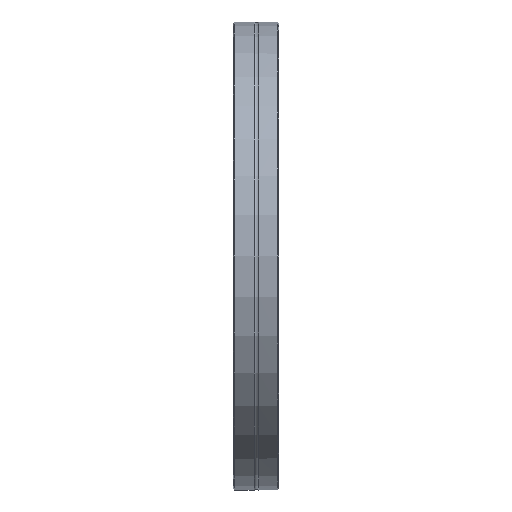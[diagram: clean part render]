
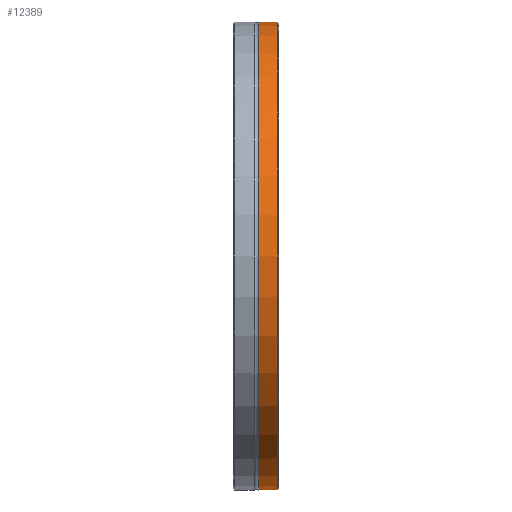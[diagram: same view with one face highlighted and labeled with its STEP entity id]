
A CAD part, front view. The second image highlights one B-rep face of the part: STEP entity #12389.
In plain terms, the highlighted cylindrical face has radius 126.5 mm (diameter 253 mm), a full revolution.
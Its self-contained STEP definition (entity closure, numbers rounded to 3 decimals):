
#12311=CARTESIAN_POINT('',(-0.6,126.495,-1.077));
#12312=VERTEX_POINT('',#12311);
#12333=CARTESIAN_POINT('',(-0.6,126.495,1.077));
#12334=VERTEX_POINT('',#12333);
#12344=CARTESIAN_POINT('',(-0.6,0.0,0.0));
#12345=DIRECTION('',(1.0,0.0,0.0));
#12346=DIRECTION('',(0.0,-1.0,0.0));
#12347=AXIS2_PLACEMENT_3D('',#12344,#12345,#12346);
#12348=CIRCLE('',#12347,126.5);
#12349=EDGE_CURVE('',#12334,#12312,#12348,.T.);
#12354=CARTESIAN_POINT('',(-5.4,0.0,0.0));
#12355=DIRECTION('',(1.0,0.0,0.0));
#12356=DIRECTION('',(0.0,1.0,0.0));
#12357=AXIS2_PLACEMENT_3D('',#12354,#12355,#12356);
#12358=CYLINDRICAL_SURFACE('',#12357,126.5);
#12359=ORIENTED_EDGE('',*,*,#12349,.F.);
#12360=CARTESIAN_POINT('',(-0.8,126.5,0.));
#12361=VERTEX_POINT('',#12360);
#12362=CARTESIAN_POINT('',(-0.6,126.495,1.077));
#12363=CARTESIAN_POINT('',(-0.734,126.498,0.728));
#12364=CARTESIAN_POINT('',(-0.8,126.5,0.353));
#12365=CARTESIAN_POINT('',(-0.8,126.5,0.));
#12366=B_SPLINE_CURVE_WITH_KNOTS('',3,(#12362,#12363,#12364,#12365),.UNSPECIFIED.,.F.,.U.,(4,4),(1.25,1.356),.UNSPECIFIED.);
#12367=EDGE_CURVE('',#12334,#12361,#12366,.T.);
#12368=ORIENTED_EDGE('',*,*,#12367,.T.);
#12369=CARTESIAN_POINT('',(-0.8,126.5,0.));
#12370=CARTESIAN_POINT('',(-0.8,126.5,-0.353));
#12371=CARTESIAN_POINT('',(-0.734,126.498,-0.728));
#12372=CARTESIAN_POINT('',(-0.6,126.495,-1.077));
#12373=B_SPLINE_CURVE_WITH_KNOTS('',3,(#12369,#12370,#12371,#12372),.UNSPECIFIED.,.F.,.U.,(4,4),(1.356,1.462),.UNSPECIFIED.);
#12374=EDGE_CURVE('',#12361,#12312,#12373,.T.);
#12375=ORIENTED_EDGE('',*,*,#12374,.T.);
#12376=EDGE_LOOP('',(#12359,#12368,#12375));
#12377=FACE_OUTER_BOUND('',#12376,.T.);
#12378=CARTESIAN_POINT('',(-10.8,126.5,0.0));
#12379=VERTEX_POINT('',#12378);
#12380=CARTESIAN_POINT('',(-10.8,0.0,0.0));
#12381=DIRECTION('',(1.0,0.0,0.0));
#12382=DIRECTION('',(0.0,1.0,0.0));
#12383=AXIS2_PLACEMENT_3D('',#12380,#12381,#12382);
#12384=CIRCLE('',#12383,126.5);
#12385=EDGE_CURVE('',#12379,#12379,#12384,.T.);
#12386=ORIENTED_EDGE('',*,*,#12385,.T.);
#12387=EDGE_LOOP('',(#12386));
#12388=FACE_BOUND('',#12387,.T.);
#12389=ADVANCED_FACE('',(#12377,#12388),#12358,.T.);
